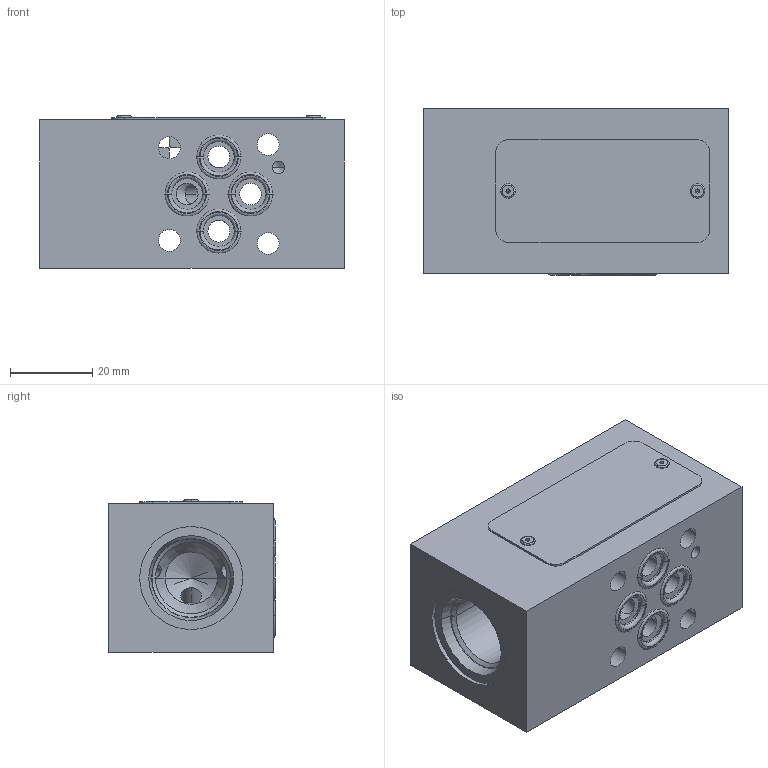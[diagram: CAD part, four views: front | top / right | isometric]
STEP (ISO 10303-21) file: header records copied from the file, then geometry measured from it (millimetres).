
FILE_DESCRIPTION((''),'2;1');
FILE_NAME('1000211492_ASM','2023-10-12T',('l.soukupova'),(''),'PRO/ENGINEER BY PARAMETRIC TECHNOLOGY CORPORATION, 2015440','PRO/ENGINEER BY PARAMETRIC TECHNOLOGY CORPORATION, 2015440','');
FILE_SCHEMA(('AUTOMOTIVE_DESIGN { 1 0 10303 214 1 1 1 1 }'));
Length unit declared in the file: millimetre
Products named in the file (5): 31509701; RD_LABEL_25X52_159703; AF_1932_16485; ORIA00750_292673; 1000211492_ASM
Assembly tree (8 placements, depth 2):
  1000211492_ASM
    31509701
    RD_LABEL_25X52_159703
    AF_1932_16485  x2
    ORIA00750_292673  x4
Bounding box: 74 x 40.4 x 37 mm (x, y, z)
Volume: 92577.8 mm3; surface area: 25639.8 mm2
Topology: 8 solids, 11 shells, 180 faces, 561 edges, 473 vertices
Faces by surface type: cylinder 88, torus 36, plane 34, cone 22
Entity records: 8261 total; most frequent: CARTESIAN_POINT 1791, DIRECTION 918, ORIENTED_EDGE 616, PRESENTATION_STYLE_ASSIGNMENT 553, STYLED_ITEM 493, CURVE_STYLE 487, AXIS2_PLACEMENT_3D 353, EDGE_CURVE 314
